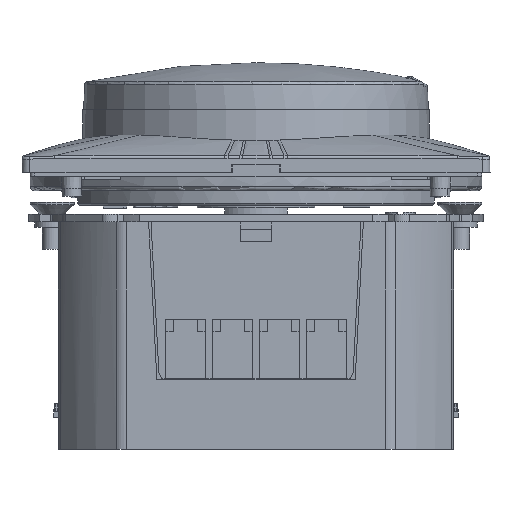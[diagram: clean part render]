
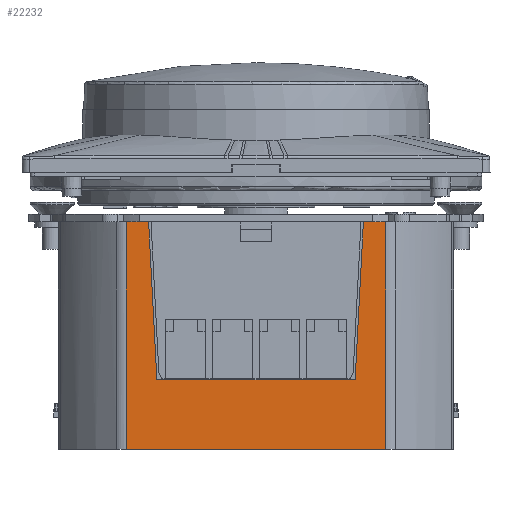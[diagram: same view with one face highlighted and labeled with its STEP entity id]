
A CAD part, front view. The second image highlights one B-rep face of the part: STEP entity #22232.
In plain terms, the highlighted planar face has unit normal (0, -1, 0) as drawn and (0, 0, 1) by its records, which use the part's own axes.
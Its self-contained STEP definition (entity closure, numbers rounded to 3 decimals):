
#4599=DIRECTION('',(0.,-1.,0.));
#4600=VECTOR('',#4599,29.);
#4601=CARTESIAN_POINT('',(-16.565,-2.7,23.7));
#4602=LINE('',#4601,#4600);
#4637=DIRECTION('',(-1.,0.,0.));
#4638=VECTOR('',#4637,0.1);
#4639=CARTESIAN_POINT('',(-13.7,-2.7,23.7));
#4640=LINE('',#4639,#4638);
#4646=DIRECTION('',(-1.,0.,0.));
#4647=VECTOR('',#4646,1.165);
#4648=CARTESIAN_POINT('',(-15.4,-2.7,23.7));
#4649=LINE('',#4648,#4647);
#4674=DIRECTION('',(-1.,0.,0.));
#4675=VECTOR('',#4674,1.165);
#4676=CARTESIAN_POINT('',(16.565,-2.7,23.7));
#4677=LINE('',#4676,#4675);
#4683=DIRECTION('',(-1.,0.,0.));
#4684=VECTOR('',#4683,0.1);
#4685=CARTESIAN_POINT('',(13.8,-2.7,23.7));
#4686=LINE('',#4685,#4684);
#6881=DIRECTION('',(0.052,-0.999,0.));
#6882=VECTOR('',#6881,20.178);
#6883=CARTESIAN_POINT('',(-13.7,-2.7,23.7));
#6884=LINE('',#6883,#6882);
#6885=DIRECTION('',(1.,0.,0.));
#6886=VECTOR('',#6885,25.288);
#6887=CARTESIAN_POINT('',(-12.644,-22.85,23.7));
#6888=LINE('',#6887,#6886);
#6889=DIRECTION('',(0.052,0.999,0.));
#6890=VECTOR('',#6889,20.178);
#6891=CARTESIAN_POINT('',(12.644,-22.85,23.7));
#6892=LINE('',#6891,#6890);
#6893=DIRECTION('',(1.,0.,0.));
#6894=VECTOR('',#6893,0.721);
#6895=CARTESIAN_POINT('',(14.24,-1.7,23.7));
#6896=LINE('',#6895,#6894);
#6897=DIRECTION('',(-1.,0.,0.));
#6898=VECTOR('',#6897,33.13);
#6899=CARTESIAN_POINT('',(16.565,-31.7,23.7));
#6900=LINE('',#6899,#6898);
#6901=DIRECTION('',(1.,0.,0.));
#6902=VECTOR('',#6901,0.721);
#6903=CARTESIAN_POINT('',(-14.96,-1.7,23.7));
#6904=LINE('',#6903,#6902);
#6922=DIRECTION('',(-1.,0.,0.));
#6923=VECTOR('',#6922,0.44);
#6924=CARTESIAN_POINT('',(-13.8,-2.7,23.7));
#6925=LINE('',#6924,#6923);
#6950=DIRECTION('',(-1.,0.,0.));
#6951=VECTOR('',#6950,0.44);
#6952=CARTESIAN_POINT('',(-14.96,-2.7,23.7));
#6953=LINE('',#6952,#6951);
#6972=DIRECTION('',(0.,1.,0.));
#6973=VECTOR('',#6972,1.);
#6974=CARTESIAN_POINT('',(-14.24,-2.7,23.7));
#6975=LINE('',#6974,#6973);
#7004=DIRECTION('',(0.,-1.,0.));
#7005=VECTOR('',#7004,1.);
#7006=CARTESIAN_POINT('',(-14.96,-1.7,23.7));
#7007=LINE('',#7006,#7005);
#7034=DIRECTION('',(-1.,0.,0.));
#7035=VECTOR('',#7034,0.44);
#7036=CARTESIAN_POINT('',(15.4,-2.7,23.7));
#7037=LINE('',#7036,#7035);
#7062=DIRECTION('',(-1.,0.,0.));
#7063=VECTOR('',#7062,0.44);
#7064=CARTESIAN_POINT('',(14.24,-2.7,23.7));
#7065=LINE('',#7064,#7063);
#7079=DIRECTION('',(0.,1.,0.));
#7080=VECTOR('',#7079,1.);
#7081=CARTESIAN_POINT('',(14.96,-2.7,23.7));
#7082=LINE('',#7081,#7080);
#7111=DIRECTION('',(0.,-1.,0.));
#7112=VECTOR('',#7111,1.);
#7113=CARTESIAN_POINT('',(14.24,-1.7,23.7));
#7114=LINE('',#7113,#7112);
#7119=DIRECTION('',(0.,1.,0.));
#7120=VECTOR('',#7119,29.);
#7121=CARTESIAN_POINT('',(16.565,-31.7,23.7));
#7122=LINE('',#7121,#7120);
#11842=CARTESIAN_POINT('',(-16.565,-2.7,23.7));
#11843=VERTEX_POINT('',#11842);
#11844=CARTESIAN_POINT('',(-16.565,-31.7,23.7));
#11845=VERTEX_POINT('',#11844);
#11868=CARTESIAN_POINT('',(-13.7,-2.7,23.7));
#11869=VERTEX_POINT('',#11868);
#11870=CARTESIAN_POINT('',(-13.8,-2.7,23.7));
#11871=VERTEX_POINT('',#11870);
#11872=CARTESIAN_POINT('',(-15.4,-2.7,23.7));
#11873=VERTEX_POINT('',#11872);
#11874=CARTESIAN_POINT('',(16.565,-2.7,23.7));
#11875=VERTEX_POINT('',#11874);
#11876=CARTESIAN_POINT('',(15.4,-2.7,23.7));
#11877=VERTEX_POINT('',#11876);
#11878=CARTESIAN_POINT('',(13.8,-2.7,23.7));
#11879=VERTEX_POINT('',#11878);
#11880=CARTESIAN_POINT('',(13.7,-2.7,23.7));
#11881=VERTEX_POINT('',#11880);
#12509=CARTESIAN_POINT('',(12.644,-22.85,23.7));
#12510=VERTEX_POINT('',#12509);
#12511=CARTESIAN_POINT('',(-12.644,-22.85,23.7));
#12512=VERTEX_POINT('',#12511);
#12513=CARTESIAN_POINT('',(14.24,-2.7,23.7));
#12514=VERTEX_POINT('',#12513);
#12515=CARTESIAN_POINT('',(14.24,-1.7,23.7));
#12516=VERTEX_POINT('',#12515);
#12517=CARTESIAN_POINT('',(14.96,-1.7,23.7));
#12518=VERTEX_POINT('',#12517);
#12519=CARTESIAN_POINT('',(14.96,-2.7,23.7));
#12520=VERTEX_POINT('',#12519);
#12521=CARTESIAN_POINT('',(16.565,-31.7,23.7));
#12522=VERTEX_POINT('',#12521);
#12523=CARTESIAN_POINT('',(-14.96,-2.7,23.7));
#12524=VERTEX_POINT('',#12523);
#12525=CARTESIAN_POINT('',(-14.96,-1.7,23.7));
#12526=VERTEX_POINT('',#12525);
#12527=CARTESIAN_POINT('',(-14.24,-1.7,23.7));
#12528=VERTEX_POINT('',#12527);
#12529=CARTESIAN_POINT('',(-14.24,-2.7,23.7));
#12530=VERTEX_POINT('',#12529);
#22191=CARTESIAN_POINT('',(16.565,-2.7,23.7));
#22192=DIRECTION('',(0.,0.,1.));
#22193=DIRECTION('',(-1.,0.,0.));
#22194=AXIS2_PLACEMENT_3D('',#22191,#22192,#22193);
#22195=PLANE('',#22194);
#22197=ORIENTED_EDGE('',*,*,#22196,.T.);
#22199=ORIENTED_EDGE('',*,*,#22198,.T.);
#22200=ORIENTED_EDGE('',*,*,#22179,.T.);
#22201=ORIENTED_EDGE('',*,*,#19144,.F.);
#22203=ORIENTED_EDGE('',*,*,#22202,.F.);
#22205=ORIENTED_EDGE('',*,*,#22204,.F.);
#22207=ORIENTED_EDGE('',*,*,#22206,.T.);
#22209=ORIENTED_EDGE('',*,*,#22208,.F.);
#22211=ORIENTED_EDGE('',*,*,#22210,.F.);
#22212=ORIENTED_EDGE('',*,*,#19140,.F.);
#22214=ORIENTED_EDGE('',*,*,#22213,.F.);
#22216=ORIENTED_EDGE('',*,*,#22215,.T.);
#22217=ORIENTED_EDGE('',*,*,#19093,.F.);
#22218=ORIENTED_EDGE('',*,*,#19132,.F.);
#22220=ORIENTED_EDGE('',*,*,#22219,.F.);
#22222=ORIENTED_EDGE('',*,*,#22221,.F.);
#22224=ORIENTED_EDGE('',*,*,#22223,.T.);
#22226=ORIENTED_EDGE('',*,*,#22225,.F.);
#22228=ORIENTED_EDGE('',*,*,#22227,.F.);
#22229=ORIENTED_EDGE('',*,*,#19128,.F.);
#22230=EDGE_LOOP('',(#22197,#22199,#22200,#22201,#22203,#22205,#22207,#22209,
#22211,#22212,#22214,#22216,#22217,#22218,#22220,#22222,#22224,#22226,#22228,
#22229));
#22231=FACE_OUTER_BOUND('',#22230,.F.);
#22232=ADVANCED_FACE('',(#22231),#22195,.T.);
#19093=EDGE_CURVE('',#11843,#11845,#4602,.T.);
#19128=EDGE_CURVE('',#11869,#11871,#4640,.T.);
#19132=EDGE_CURVE('',#11873,#11843,#4649,.T.);
#19140=EDGE_CURVE('',#11875,#11877,#4677,.T.);
#19144=EDGE_CURVE('',#11879,#11881,#4686,.T.);
#22179=EDGE_CURVE('',#12510,#11881,#6892,.T.);
#22196=EDGE_CURVE('',#11869,#12512,#6884,.T.);
#22198=EDGE_CURVE('',#12512,#12510,#6888,.T.);
#22202=EDGE_CURVE('',#12514,#11879,#7065,.T.);
#22204=EDGE_CURVE('',#12516,#12514,#7114,.T.);
#22206=EDGE_CURVE('',#12516,#12518,#6896,.T.);
#22208=EDGE_CURVE('',#12520,#12518,#7082,.T.);
#22210=EDGE_CURVE('',#11877,#12520,#7037,.T.);
#22213=EDGE_CURVE('',#12522,#11875,#7122,.T.);
#22215=EDGE_CURVE('',#12522,#11845,#6900,.T.);
#22219=EDGE_CURVE('',#12524,#11873,#6953,.T.);
#22221=EDGE_CURVE('',#12526,#12524,#7007,.T.);
#22223=EDGE_CURVE('',#12526,#12528,#6904,.T.);
#22225=EDGE_CURVE('',#12530,#12528,#6975,.T.);
#22227=EDGE_CURVE('',#11871,#12530,#6925,.T.);
